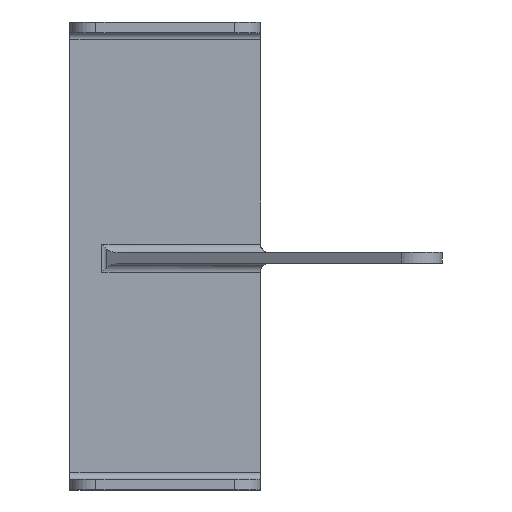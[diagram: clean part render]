
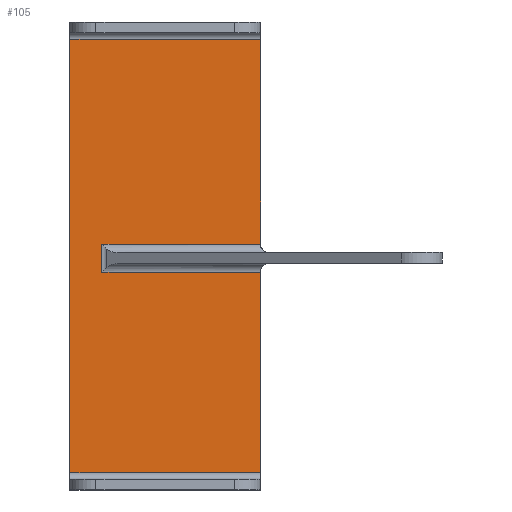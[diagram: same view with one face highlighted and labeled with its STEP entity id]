
A CAD part, top view. The second image highlights one B-rep face of the part: STEP entity #105.
In plain terms, the highlighted planar face has unit normal (0, 0, 1).
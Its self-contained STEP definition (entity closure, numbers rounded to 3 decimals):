
#105=ADVANCED_FACE('',(#148),#134,.F.);
#134=PLANE('',#573);
#148=FACE_OUTER_BOUND('',#166,.T.);
#166=EDGE_LOOP('',(#210,#211,#212,#213,#214,#215,#216,#217));
#210=ORIENTED_EDGE('',*,*,#410,.T.);
#211=ORIENTED_EDGE('',*,*,#411,.T.);
#212=ORIENTED_EDGE('',*,*,#412,.F.);
#213=ORIENTED_EDGE('',*,*,#413,.T.);
#214=ORIENTED_EDGE('',*,*,#414,.T.);
#215=ORIENTED_EDGE('',*,*,#415,.T.);
#216=ORIENTED_EDGE('',*,*,#416,.F.);
#217=ORIENTED_EDGE('',*,*,#417,.T.);
#358=VERTEX_POINT('',#798);
#359=VERTEX_POINT('',#799);
#360=VERTEX_POINT('',#801);
#361=VERTEX_POINT('',#803);
#362=VERTEX_POINT('',#805);
#363=VERTEX_POINT('',#807);
#364=VERTEX_POINT('',#809);
#365=VERTEX_POINT('',#811);
#410=EDGE_CURVE('',#358,#359,#484,.T.);
#411=EDGE_CURVE('',#359,#360,#485,.T.);
#412=EDGE_CURVE('',#361,#360,#486,.T.);
#413=EDGE_CURVE('',#361,#362,#487,.T.);
#414=EDGE_CURVE('',#362,#363,#488,.T.);
#415=EDGE_CURVE('',#363,#364,#489,.T.);
#416=EDGE_CURVE('',#365,#364,#490,.T.);
#417=EDGE_CURVE('',#365,#358,#491,.T.);
#484=LINE('',#797,#528);
#485=LINE('',#800,#529);
#486=LINE('',#802,#530);
#487=LINE('',#804,#531);
#488=LINE('',#806,#532);
#489=LINE('',#808,#533);
#490=LINE('',#810,#534);
#491=LINE('',#812,#535);
#528=VECTOR('',#634,1.);
#529=VECTOR('',#635,1.);
#530=VECTOR('',#636,1.);
#531=VECTOR('',#637,1.);
#532=VECTOR('',#638,1.);
#533=VECTOR('',#639,1.);
#534=VECTOR('',#640,1.);
#535=VECTOR('',#641,1.);
#573=AXIS2_PLACEMENT_3D('',#813,#642,#643);
#634=DIRECTION('',(0.,1.,0.));
#635=DIRECTION('',(1.,0.,0.));
#636=DIRECTION('',(0.,-1.,0.));
#637=DIRECTION('',(-1.,0.,0.));
#638=DIRECTION('',(0.,-1.,0.));
#639=DIRECTION('',(1.,0.,0.));
#640=DIRECTION('',(0.,-1.,0.));
#641=DIRECTION('',(-1.,0.,0.));
#642=DIRECTION('',(0.,0.,-1.));
#643=DIRECTION('',(-1.,0.,0.));
#797=CARTESIAN_POINT('',(-73.222,232.1,5.));
#798=CARTESIAN_POINT('',(-73.222,95.5,5.));
#799=CARTESIAN_POINT('',(-73.222,108.5,5.));
#800=CARTESIAN_POINT('',(0.,108.5,5.));
#801=CARTESIAN_POINT('',(0.,108.5,5.));
#802=CARTESIAN_POINT('',(0.,232.1,5.));
#803=CARTESIAN_POINT('',(0.,203.,5.));
#804=CARTESIAN_POINT('',(-88.,203.,5.));
#805=CARTESIAN_POINT('',(-88.,203.,5.));
#806=CARTESIAN_POINT('',(-88.,232.1,5.));
#807=CARTESIAN_POINT('',(-88.,3.,5.));
#808=CARTESIAN_POINT('',(0.,3.,5.));
#809=CARTESIAN_POINT('',(0.,3.,5.));
#810=CARTESIAN_POINT('',(0.,232.1,5.));
#811=CARTESIAN_POINT('',(0.,95.5,5.));
#812=CARTESIAN_POINT('',(-88.,95.5,5.));
#813=CARTESIAN_POINT('',(-88.,232.1,5.));
